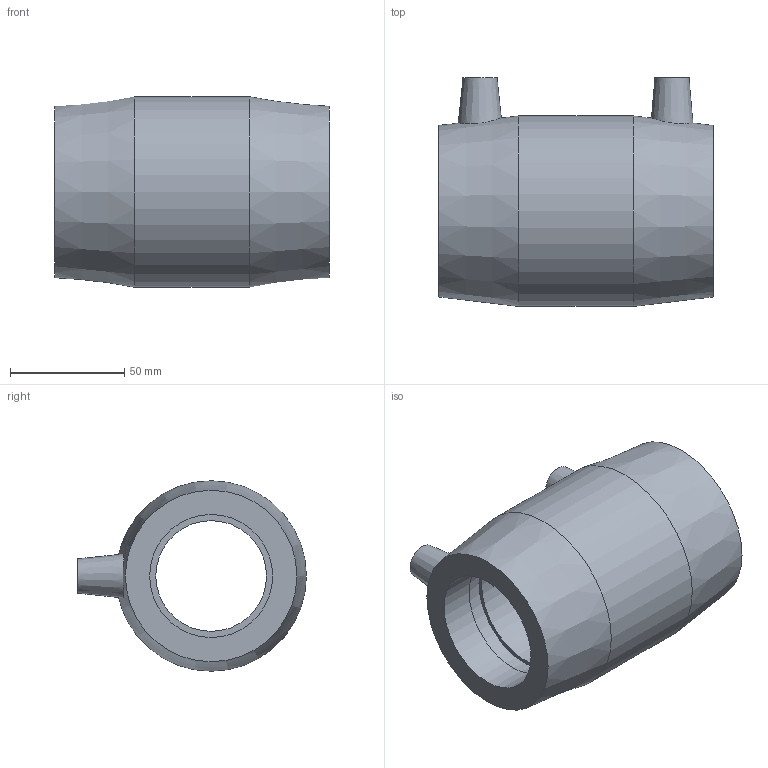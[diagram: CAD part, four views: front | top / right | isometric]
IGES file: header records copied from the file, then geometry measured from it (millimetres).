
Global section: file name: 5911BU03020020.ipt; native system: Autodesk Inventor 2019; preprocessor: unknown; author: KIM; date: 20210830.101029; units: inch
Bounding box: 119.89 x 100.08 x 83.31 mm (x, y, z)
Volume: 316803.2 mm3; surface area: 60766.9 mm2
Topology: 1 solids, 1 shells, 29 faces, 68 edges, 49 vertices
Faces by surface type: plane 12, revolution 10, cone 4, cylinder 3
Full cylindrical faces by diameter (mm): 4 x2, 83.312 x1
